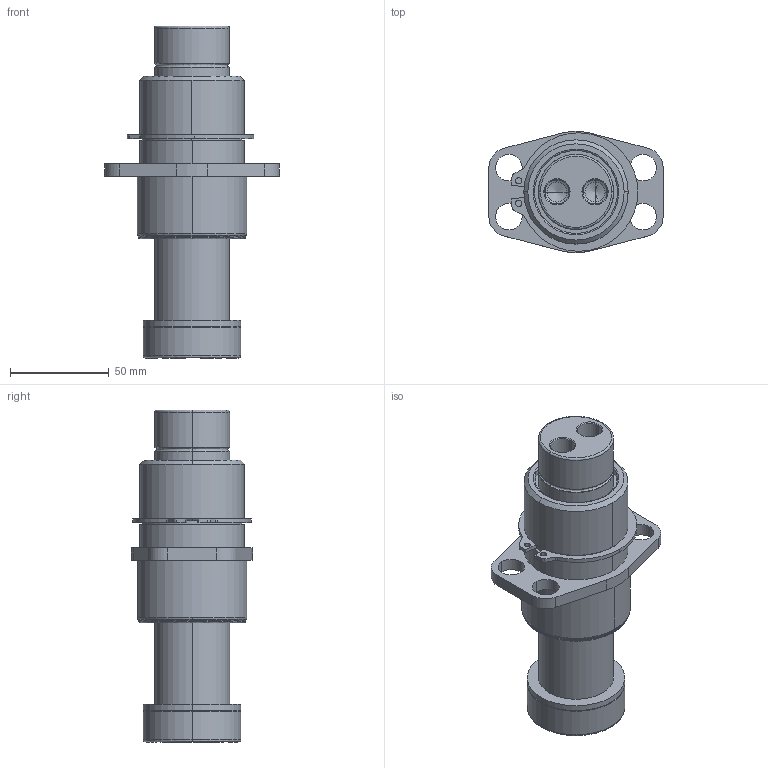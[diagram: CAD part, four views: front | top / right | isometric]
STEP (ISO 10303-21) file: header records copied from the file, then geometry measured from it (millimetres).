
FILE_DESCRIPTION (( 'STEP AP214' ), '1' );
FILE_NAME ('GK152-N3-2-TB-M-XXX.STEP', '2020-09-21T19:32:26', ( '' ), ( '' ), 'SwSTEP 2.0', 'SolidWorks 2017', '' );
FILE_SCHEMA (( 'AUTOMOTIVE_DESIGN' ));
Length unit declared in the file: inch
Products named in the file (7): GK152-M-XXX-GuidePin; RetainingRing; GK152-N3-2-TB-M-XXX; GK1.50-N3-2-TB-Base; GK152-DampeningWasher
Assembly tree (6 placements, depth 3):
  GK152-N3-2-TB-M-XXX
    GK1.50-N3-2-TB-Base
      GK1.50-N3-2-TB-Base
      RetainingRing
    GK152-M-XXX-GuidePin
      GK152-M-XXX-GuidePin
      GK152-DampeningWasher
Bounding box: 88.34 x 61.36 x 168.28 mm (x, y, z)
Volume: 298617.8 mm3; surface area: 64203.7 mm2
Topology: 4 solids, 4 shells, 131 faces, 309 edges, 190 vertices
Faces by surface type: cylinder 63, plane 26, cone 22, bspline 20
Entity records: 4586 total; most frequent: CARTESIAN_POINT 1065, DIRECTION 713, ORIENTED_EDGE 610, EDGE_CURVE 305, AXIS2_PLACEMENT_3D 296, VERTEX_POINT 190, CIRCLE 174, EDGE_LOOP 155
